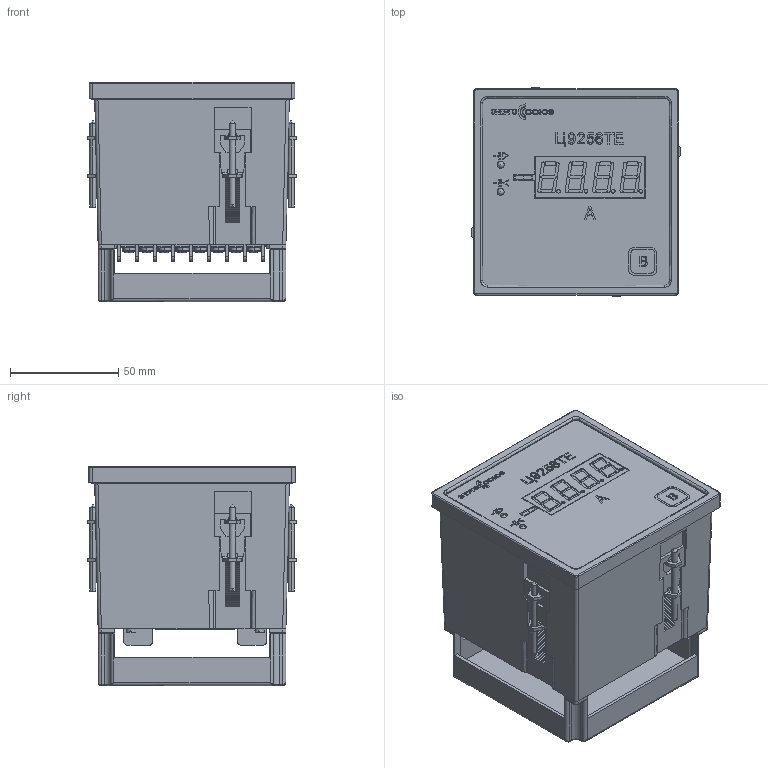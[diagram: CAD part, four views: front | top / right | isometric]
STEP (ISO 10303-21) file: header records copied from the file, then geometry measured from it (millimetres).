
FILE_DESCRIPTION (( 'STEP AP214' ), '1' );
FILE_NAME ('c9256te_96x96x103.STEP', '2025-01-17T11:00:13', ( '' ), ( '' ), 'SwSTEP 2.0', 'SolidWorks 2021', '' );
FILE_SCHEMA (( 'AUTOMOTIVE_DESIGN' ));
Length unit declared in the file: millimetre
Products named in the file (21): Êîïèÿ round led-2^sborka-c9256te_step; front-panel-9256TE_step; back-panel-TE; îñíîâàíèå DG35; øàéáà DG35; ramka-TE; Êîïèÿ Êîïèÿ round led-2^sborka-c9256te_step; Ñêîáà ÖÔ9285_step; Ñêîáà DG35; Êîïèÿ Êîïèÿ back-label-te^sborka-c9256te_step; Ñáîðêà ñêîáà ÖÔ9285_step; 鼁闉罻 DG35; pan head cross recess screw_iso_ISO 7045 - M3 x 4 - Z --- 4N; Äåòàëü1^Êîïèÿ sborka-FYQ-5641_sborka-c9256te_step; Âèíò äëÿ ñêîáû ÖÔ9285_step; Êîïèÿ sborka-FYQ-5641^sborka-c9256te_step; green-led; c9256te_96x96x103; OsnovaTE_step; slotted cheese head screw_iso_ISO 1207 - M2.5 x 10 - 10N; FYQ-5641_step
Assembly tree (48 placements, depth 3):
  Äåòàëü1^Êîïèÿ sborka-FYQ-5641_sborka-c9256te_step
  c9256te_96x96x103
    OsnovaTE_step
    front-panel-9256TE_step
    ramka-TE
    back-panel-TE
    Ñáîðêà ñêîáà ÖÔ9285_step  x4
      Ñêîáà ÖÔ9285_step
      Âèíò äëÿ ñêîáû ÖÔ9285_step
    Êîïèÿ round led-2^sborka-c9256te_step
    Êîïèÿ Êîïèÿ round led-2^sborka-c9256te_step
    green-led  x2
    Êîïèÿ sborka-FYQ-5641^sborka-c9256te_step
      FYQ-5641_step
    鼁闉罻 DG35  x2
      îñíîâàíèå DG35
      Ñêîáà DG35
      pan head cross recess screw_iso_ISO 7045 - M3 x 4 - Z --- 4N
      øàéáà DG35
    Êîïèÿ Êîïèÿ back-label-te^sborka-c9256te_step
    slotted cheese head screw_iso_ISO 1207 - M2.5 x 10 - 10N  x4
Bounding box: 96.76 x 96.76 x 101.41 mm (x, y, z)
Volume: 136834.4 mm3; surface area: 159690.4 mm2
Topology: 143 solids, 143 shells, 5553 faces, 13806 edges, 8620 vertices
Faces by surface type: plane 3176, cylinder 1000, bspline 995, cone 192, sphere 106, torus 84
Entity records: 100798 total; most frequent: CARTESIAN_POINT 35474, ORIENTED_EDGE 13848, DIRECTION 11579, EDGE_CURVE 6924, LINE 5031, VECTOR 5031, VERTEX_POINT 4528, AXIS2_PLACEMENT_3D 3274
